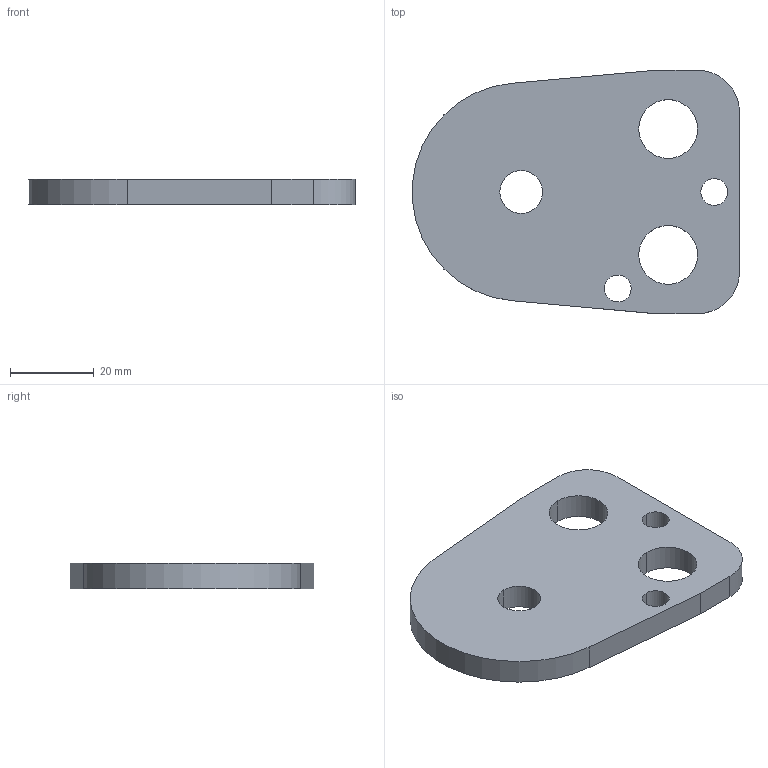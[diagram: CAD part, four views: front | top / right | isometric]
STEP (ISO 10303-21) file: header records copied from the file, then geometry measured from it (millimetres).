
FILE_DESCRIPTION(/* description */ (''),/* implementation_level */ '2;1');
FILE_NAME(/* name */ '3d_bpc38-6_03403_r00.stp',/* time_stamp */ '2011-01-10T14:17:09+09:00',/* author */ ('MISUMI'),/* organization */ (''),/* preprocessor_version */ 'ST-DEVELOPER v11',/* originating_system */ 'UGS - NX 5.0',/* authorisation */ '');
FILE_SCHEMA (('CONFIG_CONTROL_DESIGN'));
Length unit declared in the file: millimetre
Products named in the file (1): 3d_bpc38-6_03403_r00
Bounding box: 77.9 x 58 x 6 mm (x, y, z)
Volume: 20931.4 mm3; surface area: 9350.7 mm2
Topology: 1 solids, 1 shells, 20 faces, 54 edges, 36 vertices
Faces by surface type: cylinder 13, plane 7
Entity records: 750 total; most frequent: DIRECTION 122, CARTESIAN_POINT 111, ORIENTED_EDGE 108, EDGE_CURVE 54, AXIS2_PLACEMENT_3D 47, VERTEX_POINT 36, EDGE_LOOP 30, LINE 28
